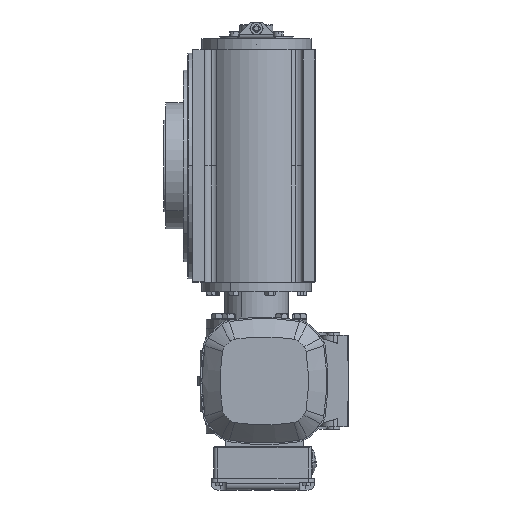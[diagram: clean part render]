
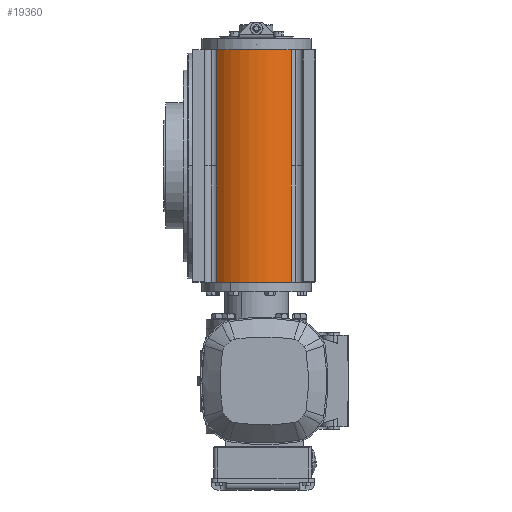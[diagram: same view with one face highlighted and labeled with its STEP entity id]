
A CAD part, left-side view. The second image highlights one B-rep face of the part: STEP entity #19360.
In plain terms, the highlighted cylindrical face has radius 60 mm (diameter 120 mm), a partial arc.
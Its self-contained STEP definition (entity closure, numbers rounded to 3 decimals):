
#644 = CARTESIAN_POINT ( 'NONE',  ( -131.481, 26.059, -127. ) ) ;
#1246 = VERTEX_POINT ( 'NONE', #644 ) ;
#2258 = CARTESIAN_POINT ( 'NONE',  ( -85., 64., 127. ) ) ;
#3063 = VERTEX_POINT ( 'NONE', #29415 ) ;
#3676 = EDGE_LOOP ( 'NONE', ( #17587, #67941, #35801, #30091, #26685, #51500 ) ) ;
#3831 = DIRECTION ( 'NONE',  ( -1., 0., 0. ) ) ;
#4050 = EDGE_CURVE ( 'NONE', #1246, #23054, #74872, .T. ) ;
#4850 = AXIS2_PLACEMENT_3D ( 'NONE', #2258, #47929, #27601 ) ;
#6911 = LINE ( 'NONE', #57583, #43719 ) ;
#12805 = CIRCLE ( 'NONE', #4850, 60. ) ;
#13185 = DIRECTION ( 'NONE',  ( 0., 0., -1. ) ) ;
#15104 = CARTESIAN_POINT ( 'NONE',  ( -126.602, 107.235, -127. ) ) ;
#16384 = EDGE_CURVE ( 'NONE', #81536, #3063, #50955, .T. ) ;
#16794 = LINE ( 'NONE', #67913, #69477 ) ;
#17077 = CYLINDRICAL_SURFACE ( 'NONE', #56325, 60. ) ;
#17587 = ORIENTED_EDGE ( 'NONE', *, *, #4050, .T. ) ;
#17757 = CIRCLE ( 'NONE', #81481, 60. ) ;
#18535 = DIRECTION ( 'NONE',  ( 0., 0., -1. ) ) ;
#18541 = CARTESIAN_POINT ( 'NONE',  ( -126.602, 107.235, -121.981 ) ) ;
#19360 = ADVANCED_FACE ( 'NONE', ( #72779 ), #17077, .T. ) ;
#22402 = VERTEX_POINT ( 'NONE', #64932 ) ;
#23054 = VERTEX_POINT ( 'NONE', #54637 ) ;
#26542 = CARTESIAN_POINT ( 'NONE',  ( -126.602, 107.235, 127. ) ) ;
#26685 = ORIENTED_EDGE ( 'NONE', *, *, #44598, .T. ) ;
#27601 = DIRECTION ( 'NONE',  ( 1., 0., 0. ) ) ;
#28871 = DIRECTION ( 'NONE',  ( 0., 0., 1. ) ) ;
#29415 = CARTESIAN_POINT ( 'NONE',  ( -126.602, 107.235, 0. ) ) ;
#30091 = ORIENTED_EDGE ( 'NONE', *, *, #16384, .T. ) ;
#34266 = VECTOR ( 'NONE', #13185, 1000. ) ;
#35801 = ORIENTED_EDGE ( 'NONE', *, *, #75647, .F. ) ;
#42085 = DIRECTION ( 'NONE',  ( 0., 0., 1. ) ) ;
#42457 = DIRECTION ( 'NONE',  ( 1., 0., 0. ) ) ;
#43719 = VECTOR ( 'NONE', #18535, 1000. ) ;
#44598 = EDGE_CURVE ( 'NONE', #3063, #66711, #6911, .T. ) ;
#47929 = DIRECTION ( 'NONE',  ( 0., 0., 1. ) ) ;
#50955 = LINE ( 'NONE', #18541, #34266 ) ;
#51500 = ORIENTED_EDGE ( 'NONE', *, *, #57296, .F. ) ;
#54519 = DIRECTION ( 'NONE',  ( 0., 0., 1. ) ) ;
#54637 = CARTESIAN_POINT ( 'NONE',  ( -131.481, 26.059, 0. ) ) ;
#56325 = AXIS2_PLACEMENT_3D ( 'NONE', #61992, #54519, #42457 ) ;
#57033 = EDGE_CURVE ( 'NONE', #23054, #22402, #16794, .T. ) ;
#57296 = EDGE_CURVE ( 'NONE', #1246, #66711, #17757, .T. ) ;
#57583 = CARTESIAN_POINT ( 'NONE',  ( -126.602, 107.235, -121.981 ) ) ;
#61193 = CARTESIAN_POINT ( 'NONE',  ( -85., 64., -127. ) ) ;
#61992 = CARTESIAN_POINT ( 'NONE',  ( -85., 64., -121.981 ) ) ;
#62038 = CARTESIAN_POINT ( 'NONE',  ( -131.481, 26.059, -121.981 ) ) ;
#64932 = CARTESIAN_POINT ( 'NONE',  ( -131.481, 26.059, 127. ) ) ;
#66575 = DIRECTION ( 'NONE',  ( 0., 0., -1. ) ) ;
#66711 = VERTEX_POINT ( 'NONE', #15104 ) ;
#67913 = CARTESIAN_POINT ( 'NONE',  ( -131.481, 26.059, -121.981 ) ) ;
#67941 = ORIENTED_EDGE ( 'NONE', *, *, #57033, .T. ) ;
#69477 = VECTOR ( 'NONE', #28871, 1000. ) ;
#72779 = FACE_OUTER_BOUND ( 'NONE', #3676, .T. ) ;
#74872 = LINE ( 'NONE', #62038, #75998 ) ;
#75647 = EDGE_CURVE ( 'NONE', #81536, #22402, #12805, .T. ) ;
#75998 = VECTOR ( 'NONE', #42085, 1000. ) ;
#81481 = AXIS2_PLACEMENT_3D ( 'NONE', #61193, #66575, #3831 ) ;
#81536 = VERTEX_POINT ( 'NONE', #26542 ) ;
